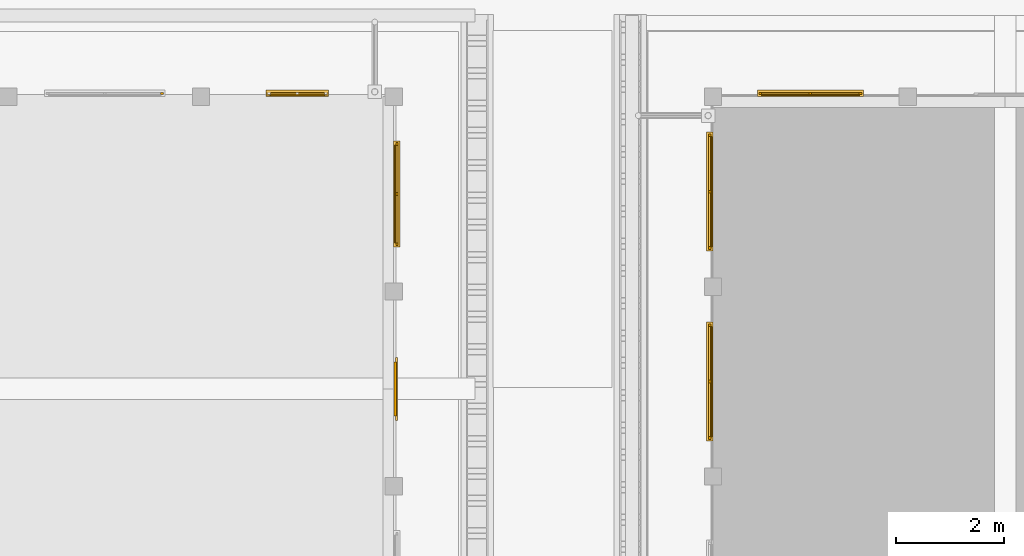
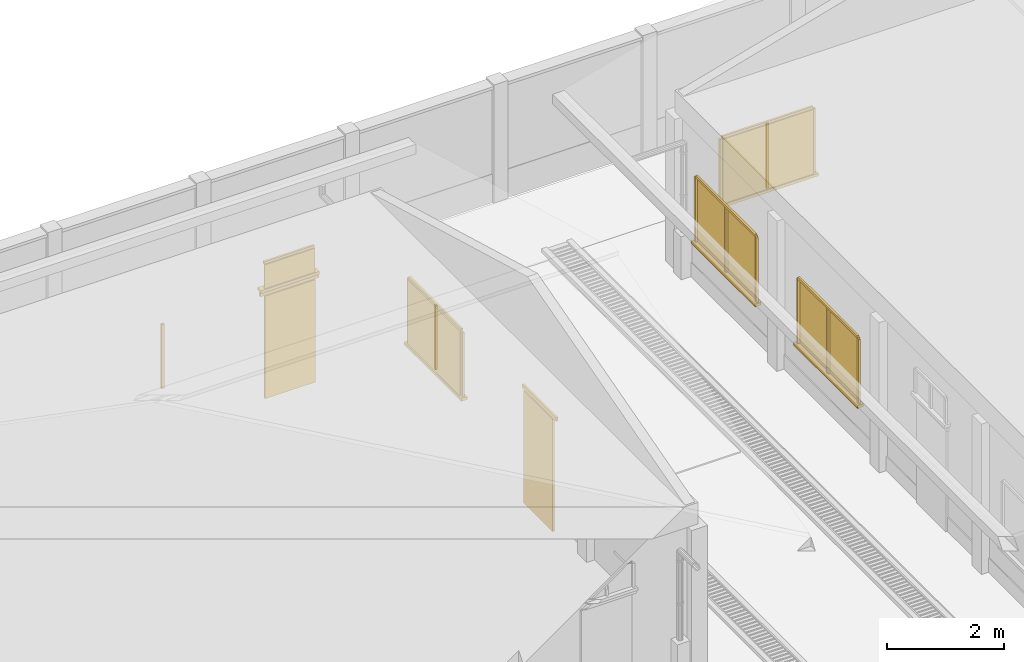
# One storey, part 63 of 166: 28 windows, 4 doors.
"""IFC2X3 building model written with IfcOpenShell, lengths in metres."""

import ifcopenshell
import ifcopenshell.guid

model = None  # the IFC model being written
_history = None  # IfcOwnerHistory: only IFC2X3 demands one
_inside = {}  # id of a spatial element -> (the spatial element, [elements in it])
_under = {}  # id of a project, library or spatial element -> (it, [spatial elements below it])
_declared = {}  # id of a project -> (the project, [libraries it declares])
_typed = {}  # id of a type object -> (the type object, [elements of that type])
_made_of = {}  # id of a material, layer set ... -> (it, [elements and type objects made of it])


def new_model(schema):
    """Start an empty IFC model of exactly this schema.

    Asked for "IFC4X3", IfcOpenShell would pick the latest addendum, in which some entities
    have other attributes; the version numbers below select the first issue.
    IFC2X3 requires an IfcOwnerHistory on every rooted entity: one is made here for all.
    """
    global model, _history
    if schema == "IFC4X3":
        model = ifcopenshell.file(schema_version=(4, 3, 0, 0))
    else:
        model = ifcopenshell.file(schema=schema)
    _inside.clear()
    _under.clear()
    _declared.clear()
    _typed.clear()
    _made_of.clear()
    _history = None
    if model.schema == "IFC2X3":
        org = make("IfcOrganization", Name="unknown")
        user = make(
            "IfcPersonAndOrganization",
            ThePerson=make("IfcPerson", FamilyName="unknown"),
            TheOrganization=org,
        )
        app = make(
            "IfcApplication",
            ApplicationDeveloper=org,
            Version="unknown",
            ApplicationFullName="unknown",
            ApplicationIdentifier="unknown",
        )
        _history = make(
            "IfcOwnerHistory",
            OwningUser=user,
            OwningApplication=app,
            ChangeAction="ADDED",
            CreationDate=0,
        )
    return model


def make(cls, **values):
    """One entity of the class cls with the attributes given. An attribute that is None is left unset."""
    return model.create_entity(
        cls, **{name: value for name, value in values.items() if value is not None}
    )


def rooted(cls, **values):
    """An entity with a GlobalId (a new one), such as an element, a storey or a relation."""
    return make(cls, GlobalId=ifcopenshell.guid.new(), OwnerHistory=_history, **values)


def si_unit(unit_type, name, prefix=None):
    """IfcSIUnit, for example si_unit("LENGTHUNIT", "METRE", prefix="MILLI")."""
    return make("IfcSIUnit", UnitType=unit_type, Prefix=prefix, Name=name)


def assignment(units):
    """IfcUnitAssignment: the units of a project."""
    return None if units is None else make("IfcUnitAssignment", Units=units)


def point(xyz):
    """IfcCartesianPoint."""
    return None if xyz is None else make("IfcCartesianPoint", Coordinates=xyz)


def direction(xyz):
    """IfcDirection."""
    return None if xyz is None else make("IfcDirection", DirectionRatios=xyz)


def frame(location, z_axis=None, x_axis=None):
    """IfcAxis2Placement3D, a coordinate frame: its origin and axes. An axis left out is left unset."""
    return make(
        "IfcAxis2Placement3D",
        Location=point(location),
        Axis=direction(z_axis),
        RefDirection=direction(x_axis),
    )


def origin():
    """The frame at (0, 0, 0) with its axes left unset."""
    return frame((0.0, 0.0, 0.0))


def origin_with_axes():
    """The frame at (0, 0, 0) with the z axis (0, 0, 1) and the x axis (1, 0, 0) written out."""
    return frame((0.0, 0.0, 0.0), z_axis=(0.0, 0.0, 1.0), x_axis=(1.0, 0.0, 0.0))


def place(relative_to, where):
    """IfcLocalPlacement: puts the frame where relative to a parent placement (None: the world)."""
    return make(
        "IfcLocalPlacement", PlacementRelTo=relative_to, RelativePlacement=where
    )


def context(
    kind, dimensions, precision=None, world=None, true_north=None, identifier=None
):
    """IfcGeometricRepresentationContext, for example the 3D "Model" context."""
    return make(
        "IfcGeometricRepresentationContext",
        ContextIdentifier=identifier,
        ContextType=kind,
        CoordinateSpaceDimension=dimensions,
        Precision=precision,
        WorldCoordinateSystem=world,
        TrueNorth=true_north,
    )


def subcontext(parent, identifier, kind, view, scale=None):
    """IfcGeometricRepresentationSubContext, for example "Body" below "Model"."""
    return make(
        "IfcGeometricRepresentationSubContext",
        ContextIdentifier=identifier,
        ContextType=kind,
        ParentContext=parent,
        TargetScale=scale,
        TargetView=view,
    )


def project(units=None, contexts=None):
    """IfcProject with its units and contexts."""
    return rooted(
        "IfcProject",
        Name="project",
        RepresentationContexts=contexts,
        UnitsInContext=assignment(units),
    )


def spatial(cls, under=None, at=None, **own):
    """A site, building, storey or space (cls), placed at a placement, below another one or the project."""
    s = rooted(cls, ObjectPlacement=at, **own)
    if under is not None:
        _under.setdefault(under.id(), (under, []))[1].append(s)
    return s


def faces_of(points, faces, orient=None, outer=None):
    """IfcFace entities. A face is a list of loops; a loop is a list of indices into points, from 0.

    orient and outer hold one flag for each loop. By default every Orientation is true, the
    first loop of a face is its IfcFaceOuterBound and the others are IfcFaceBound.
    """
    made = []
    for i, loops in enumerate(faces):
        bounds = []
        for j, loop in enumerate(loops):
            is_outer = j == 0 if outer is None else outer[i][j]
            bounds.append(
                make(
                    "IfcFaceOuterBound" if is_outer else "IfcFaceBound",
                    Bound=make("IfcPolyLoop", Polygon=[points[k] for k in loop]),
                    Orientation=True if orient is None else orient[i][j],
                )
            )
        made.append(make("IfcFace", Bounds=bounds))
    return made


def faceted_brep(points, faces, orient=None, outer=None, voids=None):
    """IfcFacetedBrep: a solid bounded by flat faces; with voids (closed shells), ...WithVoids."""
    shared = [point(p) for p in points]
    hull = make("IfcClosedShell", CfsFaces=faces_of(shared, faces, orient, outer))
    if voids is None:
        return make("IfcFacetedBrep", Outer=hull)
    return make(
        "IfcFacetedBrepWithVoids",
        Outer=hull,
        Voids=[
            make(cls, CfsFaces=faces_of(shared, fs, o, b)) for cls, fs, o, b in voids
        ],
    )


def shape(context_of_items, identifier, shape_type, items):
    """IfcShapeRepresentation: the items that make up one representation, for example the "Body"."""
    return make(
        "IfcShapeRepresentation",
        ContextOfItems=context_of_items,
        RepresentationIdentifier=identifier,
        RepresentationType=shape_type,
        Items=items,
    )


def made_of(thing, what):
    """Note that an element or type object is made of a material, layer set ...; save() writes the relation."""
    if what is not None:
        _made_of.setdefault(what.id(), (what, []))[1].append(thing)
    return thing


def element(
    cls,
    number,
    at=None,
    inside=None,
    cuts=None,
    type_object=None,
    material=None,
    context=None,
    identifier="Body",
    shape_type=None,
    held_by="IfcProductDefinitionShape",
    body=None,
    shapes=None,
    **own,
):
    """One element of the class cls, such as IfcWall. Its Tag is "e" and its number.

    at: its placement. inside: the storey or other place that contains it. cuts: it is an
    opening in that element (IfcRelVoidsElement). A single representation is given by context,
    identifier, shape_type and body (its items); several are given by shapes. held_by: the class
    of the entity that holds the representations. save() writes the other relations.
    """
    e = rooted(cls, Tag="e%d" % number, ObjectPlacement=at, **own)
    if body is not None:
        shapes = [shape(context, identifier, shape_type, body)]
    if shapes is not None:
        e.Representation = make(held_by, Representations=shapes)
    if inside is not None:
        _inside.setdefault(inside.id(), (inside, []))[1].append(e)
    if cuts is not None:
        rooted(
            "IfcRelVoidsElement", RelatingBuildingElement=cuts, RelatedOpeningElement=e
        )
    if type_object is not None:
        _typed.setdefault(type_object.id(), (type_object, []))[1].append(e)
    return made_of(e, material)


def aggregate(whole, parts):
    """IfcRelAggregates: a whole, such as a stair, and the parts it consists of."""
    return rooted("IfcRelAggregates", RelatingObject=whole, RelatedObjects=parts)


def save(model, path):
    """Write the relations noted so far, then the file.

    IfcRelAggregates (storeys below a building ...), IfcRelContainedInSpatialStructure (elements
    in a storey), IfcRelDefinesByType, IfcRelAssociatesMaterial and IfcRelDeclares: one each for
    every whole, place, type object, material and project.
    """
    for whole, parts in _under.values():
        aggregate(whole, parts)
    for where, things in _inside.values():
        rooted(
            "IfcRelContainedInSpatialStructure",
            RelatedElements=things,
            RelatingStructure=where,
        )
    for kind, things in _typed.values():
        rooted("IfcRelDefinesByType", RelatedObjects=things, RelatingType=kind)
    for what, things in _made_of.values():
        rooted("IfcRelAssociatesMaterial", RelatedObjects=things, RelatingMaterial=what)
    for by, libraries in _declared.values():
        rooted("IfcRelDeclares", RelatingContext=by, RelatedDefinitions=libraries)
    model.write(path)


model = new_model("IFC2X3")

# Units and contexts
model_context = context("Model", 3, precision=1e-05, world=origin_with_axes())
body_context = subcontext(model_context, "Body", "Model", "MODEL_VIEW")
ifc_project = project(units=[si_unit("LENGTHUNIT", "METRE"), si_unit("AREAUNIT", "SQUARE_METRE"), si_unit("VOLUMEUNIT", "CUBIC_METRE"), si_unit("PLANEANGLEUNIT", "RADIAN")], contexts=[model_context])

# Site, building, storey
site_placement = place(None, origin_with_axes())
site = spatial("IfcSite", under=ifc_project, at=site_placement, Name="Predio Los Mangos - Morales, San Martín", CompositionType="ELEMENT")
building_placement = place(site_placement, origin())
building = spatial("IfcBuilding", under=site, at=building_placement, Name="Hogar de Refugio Temporal", CompositionType="ELEMENT")
storey_placement = place(building_placement, origin())
storey = spatial("IfcBuildingStorey", under=building, at=storey_placement, Name="NIVEL 1 (NPT +0.00)", CompositionType="ELEMENT", Elevation=0.0)

# Window
window_1_placement = place(storey_placement, origin())
element("IfcWindow", 1, at=window_1_placement, inside=storey, Name="E-08_v3_m", ObjectType="Ventana", context=body_context, shape_type="Brep", body=[
    faceted_brep([(45.4924, 127.84, 1.05), (45.4924, 127.88, 1.05), (45.5424, 127.88, 1.05), (45.5424, 127.84, 1.05), (45.4924, 127.84, 2.4), (45.5424, 127.84, 2.4), (45.5424, 127.88, 2.4), (45.4924, 127.88, 2.4)], [[[0, 1, 2, 3]], [[4, 5, 6, 7]], [[0, 3, 5, 4]], [[3, 2, 6, 5]], [[2, 1, 7, 6]], [[1, 0, 4, 7]]]),
])

# Doors
door_1_placement = place(storey_placement, origin())
element("IfcDoor", 2, at=door_1_placement, inside=storey, Name="E-08_p4", ObjectType="Puerta", context=body_context, shape_type="Brep", body=[
    faceted_brep([(47.52, 127.81, 0.15), (47.52, 127.85, 0.15), (48.52, 127.85, 0.15), (48.52, 127.81, 0.15), (47.52, 127.81, 2.3), (48.52, 127.81, 2.3), (48.52, 127.85, 2.3), (47.52, 127.85, 2.3)], [[[0, 1, 2, 3]], [[4, 5, 6, 7]], [[0, 3, 5, 4]], [[3, 2, 6, 5]], [[2, 1, 7, 6]], [[1, 0, 4, 7]]]),
])
door_2_placement = place(storey_placement, origin())
element("IfcDoor", 3, at=door_2_placement, inside=storey, Name="E-08_p4_marco", ObjectType="Puerta", context=body_context, shape_type="Brep", body=[
    faceted_brep([(47.44, 127.83, 2.3), (47.44, 127.87, 2.3), (48.6, 127.87, 2.3), (48.6, 127.83, 2.3), (47.44, 127.83, 2.38), (48.6, 127.83, 2.38), (48.6, 127.87, 2.38), (47.44, 127.87, 2.38)], [[[0, 1, 2, 3]], [[4, 5, 6, 7]], [[0, 3, 5, 4]], [[3, 2, 6, 5]], [[2, 1, 7, 6]], [[1, 0, 4, 7]]]),
])

# Windows
window_2_placement = place(storey_placement, origin())
element("IfcWindow", 4, at=window_2_placement, inside=storey, Name="E-08_vt4_vid", ObjectType="Ventana", context=body_context, shape_type="Brep", body=[
    faceted_brep([(47.52, 127.82, 2.45), (47.52, 127.84, 2.45), (48.52, 127.84, 2.45), (48.52, 127.82, 2.45), (47.52, 127.82, 2.95), (48.52, 127.82, 2.95), (48.52, 127.84, 2.95), (47.52, 127.84, 2.95)], [[[0, 1, 2, 3]], [[4, 5, 6, 7]], [[0, 3, 5, 4]], [[3, 2, 6, 5]], [[2, 1, 7, 6]], [[1, 0, 4, 7]]]),
])
window_3_placement = place(storey_placement, origin())
element("IfcWindow", 5, at=window_3_placement, inside=storey, Name="E-08_vt4_m", ObjectType="Ventana", context=body_context, shape_type="Brep", body=[
    faceted_brep([(47.52, 127.84, 2.95), (47.52, 127.88, 2.95), (48.52, 127.88, 2.95), (48.52, 127.84, 2.95), (47.52, 127.84, 3.0), (48.52, 127.84, 3.0), (48.52, 127.88, 3.0), (47.52, 127.88, 3.0)], [[[0, 1, 2, 3]], [[4, 5, 6, 7]], [[0, 3, 5, 4]], [[3, 2, 6, 5]], [[2, 1, 7, 6]], [[1, 0, 4, 7]]]),
])
window_4_placement = place(storey_placement, origin())
element("IfcWindow", 6, at=window_4_placement, inside=storey, Name="E-08_vt4_alf", ObjectType="Ventana", context=body_context, shape_type="Brep", body=[
    faceted_brep([(47.44, 127.8, 2.39), (47.44, 127.92, 2.39), (48.6, 127.92, 2.39), (48.6, 127.8, 2.39), (47.44, 127.8, 2.45), (48.6, 127.8, 2.45), (48.6, 127.92, 2.45), (47.44, 127.92, 2.45)], [[[0, 1, 2, 3]], [[4, 5, 6, 7]], [[0, 3, 5, 4]], [[3, 2, 6, 5]], [[2, 1, 7, 6]], [[1, 0, 4, 7]]]),
])

# Doors
door_3_placement = place(storey_placement, origin())
element("IfcDoor", 7, at=door_3_placement, inside=storey, Name="E-08_pp", ObjectType="Puerta", context=body_context, shape_type="Brep", body=[
    faceted_brep([(49.81, 121.9, 0.15), (49.81, 122.9, 0.15), (49.85, 122.9, 0.15), (49.85, 121.9, 0.15), (49.81, 121.9, 2.5), (49.85, 121.9, 2.5), (49.85, 122.9, 2.5), (49.81, 122.9, 2.5)], [[[0, 1, 2, 3]], [[4, 5, 6, 7]], [[0, 3, 5, 4]], [[3, 2, 6, 5]], [[2, 1, 7, 6]], [[1, 0, 4, 7]]]),
])
door_4_placement = place(storey_placement, origin())
element("IfcDoor", 8, at=door_4_placement, inside=storey, Name="E-08_pp_marco", ObjectType="Puerta", context=body_context, shape_type="Brep", body=[
    faceted_brep([(49.83, 121.82, 2.5), (49.83, 122.98, 2.5), (49.87, 122.98, 2.5), (49.87, 121.82, 2.5), (49.83, 121.82, 2.58), (49.87, 121.82, 2.58), (49.87, 122.98, 2.58), (49.83, 122.98, 2.58)], [[[0, 1, 2, 3]], [[4, 5, 6, 7]], [[0, 3, 5, 4]], [[3, 2, 6, 5]], [[2, 1, 7, 6]], [[1, 0, 4, 7]]]),
])

# Windows
window_5_placement = place(storey_placement, origin())
element("IfcWindow", 9, at=window_5_placement, inside=storey, Name="E-08_vg2_vid", ObjectType="Ventana", context=body_context, shape_type="Brep", body=[
    faceted_brep([(49.82, 125.1, 1.05), (49.82, 126.9, 1.05), (49.84, 126.9, 1.05), (49.84, 125.1, 1.05), (49.82, 125.1, 2.4), (49.84, 125.1, 2.4), (49.84, 126.9, 2.4), (49.82, 126.9, 2.4)], [[[0, 1, 2, 3]], [[4, 5, 6, 7]], [[0, 3, 5, 4]], [[3, 2, 6, 5]], [[2, 1, 7, 6]], [[1, 0, 4, 7]]]),
])
window_6_placement = place(storey_placement, origin())
element("IfcWindow", 10, at=window_6_placement, inside=storey, Name="E-08_vg2_m", ObjectType="Ventana", context=body_context, shape_type="Brep", body=[
    faceted_brep([(49.84, 125.05, 1.05), (49.84, 125.1, 1.05), (49.88, 125.1, 1.05), (49.88, 125.05, 1.05), (49.84, 125.05, 2.4), (49.88, 125.05, 2.4), (49.88, 125.1, 2.4), (49.84, 125.1, 2.4)], [[[0, 1, 2, 3]], [[4, 5, 6, 7]], [[0, 3, 5, 4]], [[3, 2, 6, 5]], [[2, 1, 7, 6]], [[1, 0, 4, 7]]]),
])
window_7_placement = place(storey_placement, origin())
element("IfcWindow", 11, at=window_7_placement, inside=storey, Name="E-08_vg2_m", ObjectType="Ventana", context=body_context, shape_type="Brep", body=[
    faceted_brep([(49.84, 126.9, 1.05), (49.84, 126.95, 1.05), (49.88, 126.95, 1.05), (49.88, 126.9, 1.05), (49.84, 126.9, 2.4), (49.88, 126.9, 2.4), (49.88, 126.95, 2.4), (49.84, 126.95, 2.4)], [[[0, 1, 2, 3]], [[4, 5, 6, 7]], [[0, 3, 5, 4]], [[3, 2, 6, 5]], [[2, 1, 7, 6]], [[1, 0, 4, 7]]]),
])
window_8_placement = place(storey_placement, origin())
element("IfcWindow", 12, at=window_8_placement, inside=storey, Name="E-08_vg2_m", ObjectType="Ventana", context=body_context, shape_type="Brep", body=[
    faceted_brep([(49.84, 125.1, 2.4), (49.84, 126.9, 2.4), (49.88, 126.9, 2.4), (49.88, 125.1, 2.4), (49.84, 125.1, 2.45), (49.88, 125.1, 2.45), (49.88, 126.9, 2.45), (49.84, 126.9, 2.45)], [[[0, 1, 2, 3]], [[4, 5, 6, 7]], [[0, 3, 5, 4]], [[3, 2, 6, 5]], [[2, 1, 7, 6]], [[1, 0, 4, 7]]]),
])
window_9_placement = place(storey_placement, origin())
element("IfcWindow", 13, at=window_9_placement, inside=storey, Name="E-08_vg2_m", ObjectType="Ventana", context=body_context, shape_type="Brep", body=[
    faceted_brep([(49.84, 125.975, 1.05), (49.84, 126.025, 1.05), (49.88, 126.025, 1.05), (49.88, 125.975, 1.05), (49.84, 125.975, 2.4), (49.88, 125.975, 2.4), (49.88, 126.025, 2.4), (49.84, 126.025, 2.4)], [[[0, 1, 2, 3]], [[4, 5, 6, 7]], [[0, 3, 5, 4]], [[3, 2, 6, 5]], [[2, 1, 7, 6]], [[1, 0, 4, 7]]]),
])
window_10_placement = place(storey_placement, origin())
element("IfcWindow", 14, at=window_10_placement, inside=storey, Name="E-08_vg2_alf", ObjectType="Ventana", context=body_context, shape_type="Brep", body=[
    faceted_brep([(49.8, 125.02, 0.99), (49.8, 126.98, 0.99), (49.92, 126.98, 0.99), (49.92, 125.02, 0.99), (49.8, 125.02, 1.05), (49.92, 125.02, 1.05), (49.92, 126.98, 1.05), (49.8, 126.98, 1.05)], [[[0, 1, 2, 3]], [[4, 5, 6, 7]], [[0, 3, 5, 4]], [[3, 2, 6, 5]], [[2, 1, 7, 6]], [[1, 0, 4, 7]]]),
])
window_11_placement = place(storey_placement, origin())
element("IfcWindow", 15, at=window_11_placement, inside=storey, Name="E-07_vg0_vid", ObjectType="Ventana", context=body_context, shape_type="Brep", body=[
    faceted_brep([(56.6, 127.82, 1.05), (56.6, 127.84, 1.05), (58.4, 127.84, 1.05), (58.4, 127.82, 1.05), (56.6, 127.82, 2.4), (58.4, 127.82, 2.4), (58.4, 127.84, 2.4), (56.6, 127.84, 2.4)], [[[0, 1, 2, 3]], [[4, 5, 6, 7]], [[0, 3, 5, 4]], [[3, 2, 6, 5]], [[2, 1, 7, 6]], [[1, 0, 4, 7]]]),
])
window_12_placement = place(storey_placement, origin())
element("IfcWindow", 16, at=window_12_placement, inside=storey, Name="E-07_vg0_m", ObjectType="Ventana", context=body_context, shape_type="Brep", body=[
    faceted_brep([(56.55, 127.84, 1.05), (56.55, 127.88, 1.05), (56.6, 127.88, 1.05), (56.6, 127.84, 1.05), (56.55, 127.84, 2.4), (56.6, 127.84, 2.4), (56.6, 127.88, 2.4), (56.55, 127.88, 2.4)], [[[0, 1, 2, 3]], [[4, 5, 6, 7]], [[0, 3, 5, 4]], [[3, 2, 6, 5]], [[2, 1, 7, 6]], [[1, 0, 4, 7]]]),
])
window_13_placement = place(storey_placement, origin())
element("IfcWindow", 17, at=window_13_placement, inside=storey, Name="E-07_vg0_m", ObjectType="Ventana", context=body_context, shape_type="Brep", body=[
    faceted_brep([(58.4, 127.84, 1.05), (58.4, 127.88, 1.05), (58.45, 127.88, 1.05), (58.45, 127.84, 1.05), (58.4, 127.84, 2.4), (58.45, 127.84, 2.4), (58.45, 127.88, 2.4), (58.4, 127.88, 2.4)], [[[0, 1, 2, 3]], [[4, 5, 6, 7]], [[0, 3, 5, 4]], [[3, 2, 6, 5]], [[2, 1, 7, 6]], [[1, 0, 4, 7]]]),
])
window_14_placement = place(storey_placement, origin())
element("IfcWindow", 18, at=window_14_placement, inside=storey, Name="E-07_vg0_m", ObjectType="Ventana", context=body_context, shape_type="Brep", body=[
    faceted_brep([(56.6, 127.84, 2.4), (56.6, 127.88, 2.4), (58.4, 127.88, 2.4), (58.4, 127.84, 2.4), (56.6, 127.84, 2.45), (58.4, 127.84, 2.45), (58.4, 127.88, 2.45), (56.6, 127.88, 2.45)], [[[0, 1, 2, 3]], [[4, 5, 6, 7]], [[0, 3, 5, 4]], [[3, 2, 6, 5]], [[2, 1, 7, 6]], [[1, 0, 4, 7]]]),
])
window_15_placement = place(storey_placement, origin())
element("IfcWindow", 19, at=window_15_placement, inside=storey, Name="E-07_vg0_m", ObjectType="Ventana", context=body_context, shape_type="Brep", body=[
    faceted_brep([(57.475, 127.84, 1.05), (57.475, 127.88, 1.05), (57.525, 127.88, 1.05), (57.525, 127.84, 1.05), (57.475, 127.84, 2.4), (57.525, 127.84, 2.4), (57.525, 127.88, 2.4), (57.475, 127.88, 2.4)], [[[0, 1, 2, 3]], [[4, 5, 6, 7]], [[0, 3, 5, 4]], [[3, 2, 6, 5]], [[2, 1, 7, 6]], [[1, 0, 4, 7]]]),
])
window_16_placement = place(storey_placement, origin())
element("IfcWindow", 20, at=window_16_placement, inside=storey, Name="E-07_vg0_alf", ObjectType="Ventana", context=body_context, shape_type="Brep", body=[
    faceted_brep([(56.52, 127.8, 0.99), (56.52, 127.92, 0.99), (58.48, 127.92, 0.99), (58.48, 127.8, 0.99), (56.52, 127.8, 1.05), (58.48, 127.8, 1.05), (58.48, 127.92, 1.05), (56.52, 127.92, 1.05)], [[[0, 1, 2, 3]], [[4, 5, 6, 7]], [[0, 3, 5, 4]], [[3, 2, 6, 5]], [[2, 1, 7, 6]], [[1, 0, 4, 7]]]),
])
window_17_placement = place(storey_placement, origin())
element("IfcWindow", 21, at=window_17_placement, inside=storey, Name="E-07_v8_vid", ObjectType="Ventana", context=body_context, shape_type="Brep", body=[
    faceted_brep([(55.66, 121.5171, 1.05), (55.66, 123.5529, 1.05), (55.68, 123.5529, 1.05), (55.68, 121.5171, 1.05), (55.66, 121.5171, 2.4), (55.68, 121.5171, 2.4), (55.68, 123.5529, 2.4), (55.66, 123.5529, 2.4)], [[[0, 1, 2, 3]], [[4, 5, 6, 7]], [[0, 3, 5, 4]], [[3, 2, 6, 5]], [[2, 1, 7, 6]], [[1, 0, 4, 7]]]),
])
window_18_placement = place(storey_placement, origin())
element("IfcWindow", 22, at=window_18_placement, inside=storey, Name="E-07_v8_m", ObjectType="Ventana", context=body_context, shape_type="Brep", body=[
    faceted_brep([(55.62, 121.4671, 1.05), (55.62, 121.5171, 1.05), (55.66, 121.5171, 1.05), (55.66, 121.4671, 1.05), (55.62, 121.4671, 2.4), (55.66, 121.4671, 2.4), (55.66, 121.5171, 2.4), (55.62, 121.5171, 2.4)], [[[0, 1, 2, 3]], [[4, 5, 6, 7]], [[0, 3, 5, 4]], [[3, 2, 6, 5]], [[2, 1, 7, 6]], [[1, 0, 4, 7]]]),
])
window_19_placement = place(storey_placement, origin())
element("IfcWindow", 23, at=window_19_placement, inside=storey, Name="E-07_v8_m", ObjectType="Ventana", context=body_context, shape_type="Brep", body=[
    faceted_brep([(55.62, 123.5529, 1.05), (55.62, 123.6029, 1.05), (55.66, 123.6029, 1.05), (55.66, 123.5529, 1.05), (55.62, 123.5529, 2.4), (55.66, 123.5529, 2.4), (55.66, 123.6029, 2.4), (55.62, 123.6029, 2.4)], [[[0, 1, 2, 3]], [[4, 5, 6, 7]], [[0, 3, 5, 4]], [[3, 2, 6, 5]], [[2, 1, 7, 6]], [[1, 0, 4, 7]]]),
])
window_20_placement = place(storey_placement, origin())
element("IfcWindow", 24, at=window_20_placement, inside=storey, Name="E-07_v8_m", ObjectType="Ventana", context=body_context, shape_type="Brep", body=[
    faceted_brep([(55.62, 121.5171, 2.4), (55.62, 123.5529, 2.4), (55.66, 123.5529, 2.4), (55.66, 121.5171, 2.4), (55.62, 121.5171, 2.45), (55.66, 121.5171, 2.45), (55.66, 123.5529, 2.45), (55.62, 123.5529, 2.45)], [[[0, 1, 2, 3]], [[4, 5, 6, 7]], [[0, 3, 5, 4]], [[3, 2, 6, 5]], [[2, 1, 7, 6]], [[1, 0, 4, 7]]]),
])
window_21_placement = place(storey_placement, origin())
element("IfcWindow", 25, at=window_21_placement, inside=storey, Name="E-07_v8_m", ObjectType="Ventana", context=body_context, shape_type="Brep", body=[
    faceted_brep([(55.62, 122.51, 1.05), (55.62, 122.56, 1.05), (55.66, 122.56, 1.05), (55.66, 122.51, 1.05), (55.62, 122.51, 2.4), (55.66, 122.51, 2.4), (55.66, 122.56, 2.4), (55.62, 122.56, 2.4)], [[[0, 1, 2, 3]], [[4, 5, 6, 7]], [[0, 3, 5, 4]], [[3, 2, 6, 5]], [[2, 1, 7, 6]], [[1, 0, 4, 7]]]),
])
window_22_placement = place(storey_placement, origin())
element("IfcWindow", 26, at=window_22_placement, inside=storey, Name="E-07_v8_alf", ObjectType="Ventana", context=body_context, shape_type="Brep", body=[
    faceted_brep([(55.7, 121.4371, 0.99), (55.7, 123.6329, 0.99), (55.58, 123.6329, 0.99), (55.58, 121.4371, 0.99), (55.7, 121.4371, 1.05), (55.58, 121.4371, 1.05), (55.58, 123.6329, 1.05), (55.7, 123.6329, 1.05)], [[[0, 1, 2, 3]], [[4, 5, 6, 7]], [[0, 3, 5, 4]], [[3, 2, 6, 5]], [[2, 1, 7, 6]], [[1, 0, 4, 7]]]),
])
window_23_placement = place(storey_placement, origin())
element("IfcWindow", 27, at=window_23_placement, inside=storey, Name="E-07_v9_vid", ObjectType="Ventana", context=body_context, shape_type="Brep", body=[
    faceted_brep([(55.66, 125.0271, 1.05), (55.66, 127.0629, 1.05), (55.68, 127.0629, 1.05), (55.68, 125.0271, 1.05), (55.66, 125.0271, 2.4), (55.68, 125.0271, 2.4), (55.68, 127.0629, 2.4), (55.66, 127.0629, 2.4)], [[[0, 1, 2, 3]], [[4, 5, 6, 7]], [[0, 3, 5, 4]], [[3, 2, 6, 5]], [[2, 1, 7, 6]], [[1, 0, 4, 7]]]),
])
window_24_placement = place(storey_placement, origin())
element("IfcWindow", 28, at=window_24_placement, inside=storey, Name="E-07_v9_m", ObjectType="Ventana", context=body_context, shape_type="Brep", body=[
    faceted_brep([(55.62, 124.9771, 1.05), (55.62, 125.0271, 1.05), (55.66, 125.0271, 1.05), (55.66, 124.9771, 1.05), (55.62, 124.9771, 2.4), (55.66, 124.9771, 2.4), (55.66, 125.0271, 2.4), (55.62, 125.0271, 2.4)], [[[0, 1, 2, 3]], [[4, 5, 6, 7]], [[0, 3, 5, 4]], [[3, 2, 6, 5]], [[2, 1, 7, 6]], [[1, 0, 4, 7]]]),
])
window_25_placement = place(storey_placement, origin())
element("IfcWindow", 29, at=window_25_placement, inside=storey, Name="E-07_v9_m", ObjectType="Ventana", context=body_context, shape_type="Brep", body=[
    faceted_brep([(55.62, 127.0629, 1.05), (55.62, 127.1129, 1.05), (55.66, 127.1129, 1.05), (55.66, 127.0629, 1.05), (55.62, 127.0629, 2.4), (55.66, 127.0629, 2.4), (55.66, 127.1129, 2.4), (55.62, 127.1129, 2.4)], [[[0, 1, 2, 3]], [[4, 5, 6, 7]], [[0, 3, 5, 4]], [[3, 2, 6, 5]], [[2, 1, 7, 6]], [[1, 0, 4, 7]]]),
])
window_26_placement = place(storey_placement, origin())
element("IfcWindow", 30, at=window_26_placement, inside=storey, Name="E-07_v9_m", ObjectType="Ventana", context=body_context, shape_type="Brep", body=[
    faceted_brep([(55.62, 125.0271, 2.4), (55.62, 127.0629, 2.4), (55.66, 127.0629, 2.4), (55.66, 125.0271, 2.4), (55.62, 125.0271, 2.45), (55.66, 125.0271, 2.45), (55.66, 127.0629, 2.45), (55.62, 127.0629, 2.45)], [[[0, 1, 2, 3]], [[4, 5, 6, 7]], [[0, 3, 5, 4]], [[3, 2, 6, 5]], [[2, 1, 7, 6]], [[1, 0, 4, 7]]]),
])
window_27_placement = place(storey_placement, origin())
element("IfcWindow", 31, at=window_27_placement, inside=storey, Name="E-07_v9_m", ObjectType="Ventana", context=body_context, shape_type="Brep", body=[
    faceted_brep([(55.62, 126.02, 1.05), (55.62, 126.07, 1.05), (55.66, 126.07, 1.05), (55.66, 126.02, 1.05), (55.62, 126.02, 2.4), (55.66, 126.02, 2.4), (55.66, 126.07, 2.4), (55.62, 126.07, 2.4)], [[[0, 1, 2, 3]], [[4, 5, 6, 7]], [[0, 3, 5, 4]], [[3, 2, 6, 5]], [[2, 1, 7, 6]], [[1, 0, 4, 7]]]),
])
window_28_placement = place(storey_placement, origin())
element("IfcWindow", 32, at=window_28_placement, inside=storey, Name="E-07_v9_alf", ObjectType="Ventana", context=body_context, shape_type="Brep", body=[
    faceted_brep([(55.7, 124.9471, 0.99), (55.7, 127.1429, 0.99), (55.58, 127.1429, 0.99), (55.58, 124.9471, 0.99), (55.7, 124.9471, 1.05), (55.58, 124.9471, 1.05), (55.58, 127.1429, 1.05), (55.7, 127.1429, 1.05)], [[[0, 1, 2, 3]], [[4, 5, 6, 7]], [[0, 3, 5, 4]], [[3, 2, 6, 5]], [[2, 1, 7, 6]], [[1, 0, 4, 7]]]),
])

save(model, "model.ifc")
